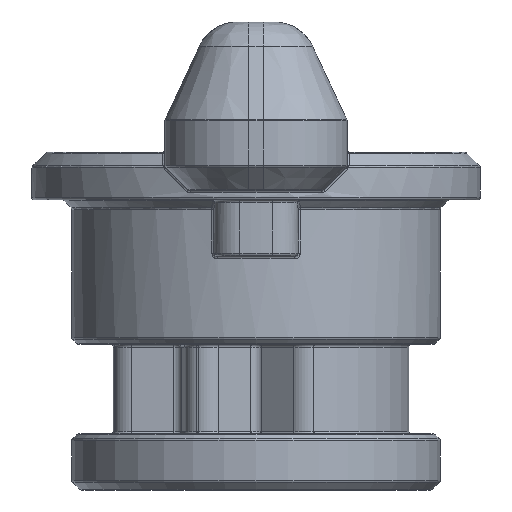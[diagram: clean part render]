
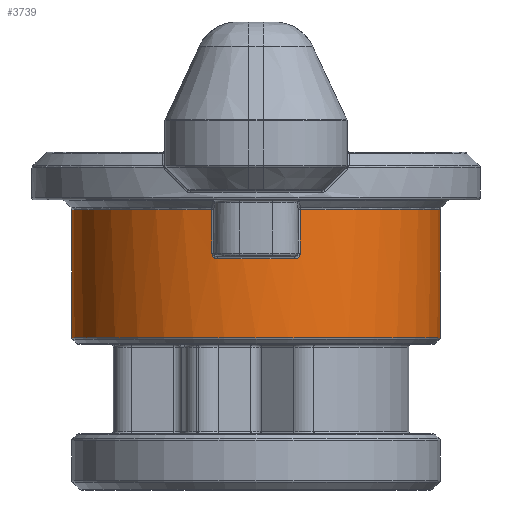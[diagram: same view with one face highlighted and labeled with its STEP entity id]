
A CAD part, front view. The second image highlights one B-rep face of the part: STEP entity #3739.
In plain terms, the highlighted cylindrical face has radius 6.575 mm (diameter 13.15 mm), a partial arc.
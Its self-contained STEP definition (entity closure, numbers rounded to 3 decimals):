
#320=CARTESIAN_POINT('',(0.,0.,13.309));
#321=DIRECTION('',(0.,0.,1.));
#322=DIRECTION('',(0.24,-0.971,0.));
#323=AXIS2_PLACEMENT_3D('',#320,#321,#322);
#325=CARTESIAN_POINT('',(0.,0.,8.741));
#326=DIRECTION('',(0.,0.,1.));
#327=DIRECTION('',(-1.,0.,0.));
#328=AXIS2_PLACEMENT_3D('',#325,#326,#327);
#330=CARTESIAN_POINT('',(0.,0.,13.309));
#331=DIRECTION('',(0.,0.,1.));
#332=DIRECTION('',(-1.,0.,0.));
#333=AXIS2_PLACEMENT_3D('',#330,#331,#332);
#335=DIRECTION('',(0.,0.,-1.));
#336=VECTOR('',#335,1.559);
#337=CARTESIAN_POINT('',(-1.576,-6.383,13.309));
#338=LINE('',#337,#336);
#339=CARTESIAN_POINT('',(-1.574,-6.384,11.723));
#340=CARTESIAN_POINT('',(-1.575,-6.384,11.727));
#341=CARTESIAN_POINT('',(-1.576,-6.383,11.736));
#342=CARTESIAN_POINT('',(-1.576,-6.383,11.745));
#343=CARTESIAN_POINT('',(-1.576,-6.383,11.75));
#345=CARTESIAN_POINT('',(-1.378,-6.429,11.55));
#346=CARTESIAN_POINT('',(-1.395,-6.425,11.55));
#347=CARTESIAN_POINT('',(-1.428,-6.418,11.554));
#348=CARTESIAN_POINT('',(-1.48,-6.406,11.575));
#349=CARTESIAN_POINT('',(-1.526,-6.395,11.613));
#350=CARTESIAN_POINT('',(-1.56,-6.387,11.664));
#351=CARTESIAN_POINT('',(-1.571,-6.384,11.702));
#352=CARTESIAN_POINT('',(-1.574,-6.384,11.723));
#354=CARTESIAN_POINT('',(0.,0.,11.55));
#355=DIRECTION('',(0.,0.,1.));
#356=DIRECTION('',(-0.21,-0.978,0.));
#357=AXIS2_PLACEMENT_3D('',#354,#355,#356);
#359=CARTESIAN_POINT('',(1.576,-6.383,11.75));
#360=CARTESIAN_POINT('',(1.576,-6.383,11.723));
#361=CARTESIAN_POINT('',(1.566,-6.386,11.673));
#362=CARTESIAN_POINT('',(1.523,-6.396,11.606));
#363=CARTESIAN_POINT('',(1.456,-6.412,11.561));
#364=CARTESIAN_POINT('',(1.406,-6.423,11.55));
#365=CARTESIAN_POINT('',(1.378,-6.429,11.55));
#367=DIRECTION('',(0.,0.,1.));
#368=VECTOR('',#367,1.559);
#369=CARTESIAN_POINT('',(1.576,-6.383,11.75));
#370=LINE('',#369,#368);
#404=DIRECTION('',(0.,0.,1.));
#405=VECTOR('',#404,4.567);
#406=CARTESIAN_POINT('',(-6.575,0.,8.741));
#407=LINE('',#406,#405);
#413=DIRECTION('',(0.,0.,1.));
#414=VECTOR('',#413,4.567);
#415=CARTESIAN_POINT('',(6.575,0.,8.741));
#416=LINE('',#415,#414);
#2949=CARTESIAN_POINT('',(6.575,0.,8.741));
#2950=CARTESIAN_POINT('',(-6.575,0.,8.741));
#2951=VERTEX_POINT('',#2949);
#2952=VERTEX_POINT('',#2950);
#3192=CARTESIAN_POINT('',(1.576,-6.383,13.309));
#3193=CARTESIAN_POINT('',(6.575,0.,13.309));
#3194=VERTEX_POINT('',#3192);
#3195=VERTEX_POINT('',#3193);
#3196=CARTESIAN_POINT('',(-6.575,0.,13.309));
#3197=VERTEX_POINT('',#3196);
#3198=CARTESIAN_POINT('',(-1.576,-6.383,
13.309));
#3199=VERTEX_POINT('',#3198);
#3200=CARTESIAN_POINT('',(1.576,-6.383,11.75));
#3201=VERTEX_POINT('',#3200);
#3217=CARTESIAN_POINT('',(-1.576,-6.383,11.75));
#3218=VERTEX_POINT('',#3217);
#3235=CARTESIAN_POINT('',(-1.378,-6.429,11.55));
#3236=CARTESIAN_POINT('',(1.378,-6.429,11.55));
#3237=VERTEX_POINT('',#3235);
#3238=VERTEX_POINT('',#3236);
#3239=VERTEX_POINT('',#339);
#3710=CARTESIAN_POINT('',(0.,0.,-16.885));
#3711=DIRECTION('',(0.,0.,1.));
#3712=DIRECTION('',(-1.,0.,0.));
#3713=AXIS2_PLACEMENT_3D('',#3710,#3711,#3712);
#3714=CYLINDRICAL_SURFACE('',#3713,6.575);
#3716=ORIENTED_EDGE('',*,*,#3715,.T.);
#3718=ORIENTED_EDGE('',*,*,#3717,.F.);
#3720=ORIENTED_EDGE('',*,*,#3719,.F.);
#3722=ORIENTED_EDGE('',*,*,#3721,.T.);
#3724=ORIENTED_EDGE('',*,*,#3723,.T.);
#3726=ORIENTED_EDGE('',*,*,#3725,.T.);
#3728=ORIENTED_EDGE('',*,*,#3727,.F.);
#3730=ORIENTED_EDGE('',*,*,#3729,.F.);
#3732=ORIENTED_EDGE('',*,*,#3731,.T.);
#3734=ORIENTED_EDGE('',*,*,#3733,.F.);
#3736=ORIENTED_EDGE('',*,*,#3735,.T.);
#3737=EDGE_LOOP('',(#3716,#3718,#3720,#3722,#3724,#3726,#3728,#3730,#3732,#3734,
#3736));
#3738=FACE_OUTER_BOUND('',#3737,.F.);
#3739=ADVANCED_FACE('',(#3738),#3714,.T.);
#324=CIRCLE('',#323,6.575);
#329=CIRCLE('',#328,6.575);
#334=CIRCLE('',#333,6.575);
#344=B_SPLINE_CURVE_WITH_KNOTS('',3,(#339,#340,#341,#342,#343),.UNSPECIFIED.,
.F.,.F.,(4,1,4),(0.,0.5,1.),.UNSPECIFIED.);
#353=B_SPLINE_CURVE_WITH_KNOTS('',3,(#345,#346,#347,#348,#349,#350,#351,#352),
.UNSPECIFIED.,.F.,.F.,(4,1,1,1,1,4),(0.,0.2,0.4,0.6,0.8,1.),
.UNSPECIFIED.);
#358=CIRCLE('',#357,6.575);
#366=B_SPLINE_CURVE_WITH_KNOTS('',3,(#359,#360,#361,#362,#363,#364,#365),
.UNSPECIFIED.,.F.,.F.,(4,1,1,1,4),(0.,0.25,0.5,0.75,1.),
.UNSPECIFIED.);
#3715=EDGE_CURVE('',#3194,#3195,#324,.T.);
#3717=EDGE_CURVE('',#2951,#3195,#416,.T.);
#3719=EDGE_CURVE('',#2952,#2951,#329,.T.);
#3721=EDGE_CURVE('',#2952,#3197,#407,.T.);
#3723=EDGE_CURVE('',#3197,#3199,#334,.T.);
#3725=EDGE_CURVE('',#3199,#3218,#338,.T.);
#3727=EDGE_CURVE('',#3239,#3218,#344,.T.);
#3729=EDGE_CURVE('',#3237,#3239,#353,.T.);
#3731=EDGE_CURVE('',#3237,#3238,#358,.T.);
#3733=EDGE_CURVE('',#3201,#3238,#366,.T.);
#3735=EDGE_CURVE('',#3201,#3194,#370,.T.);
